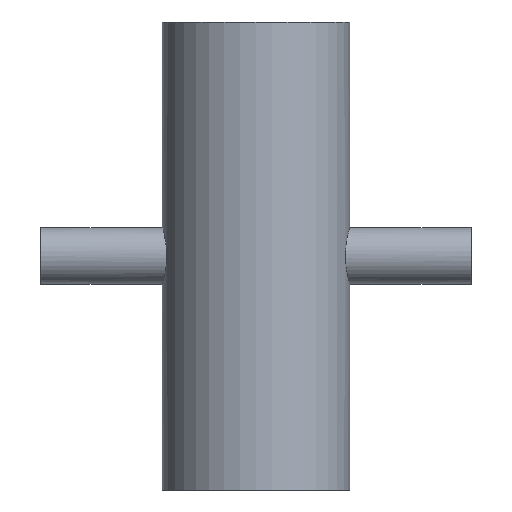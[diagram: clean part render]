
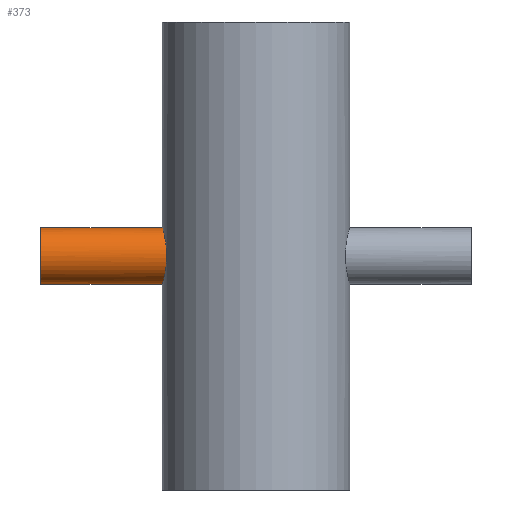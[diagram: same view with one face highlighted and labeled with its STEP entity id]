
A CAD part, front view. The second image highlights one B-rep face of the part: STEP entity #373.
In plain terms, the highlighted cylindrical face has radius 9.525 mm (diameter 19.05 mm), a partial arc.
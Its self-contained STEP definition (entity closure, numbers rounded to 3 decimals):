
#4 = FACE_OUTER_BOUND ( 'NONE', #678, .T. ) ;
#9 = DIRECTION ( 'NONE',  ( 0., 0., -1. ) ) ;
#27 = LINE ( 'NONE', #33, #527 ) ;
#33 = CARTESIAN_POINT ( 'NONE',  ( -73.025, 0., -9.525 ) ) ;
#35 = CARTESIAN_POINT ( 'NONE',  ( -31.727, -1.26, -9.447 ) ) ;
#51 = CARTESIAN_POINT ( 'NONE',  ( -31.75, 0., -9.525 ) ) ;
#57 = CARTESIAN_POINT ( 'NONE',  ( -31.75, 0., -9.525 ) ) ;
#67 = CIRCLE ( 'NONE', #119, 9.525 ) ;
#75 = AXIS2_PLACEMENT_3D ( 'NONE', #748, #429, #687 ) ;
#77 = CARTESIAN_POINT ( 'NONE',  ( -73.025, 0., -9.525 ) ) ;
#99 = CARTESIAN_POINT ( 'NONE',  ( -31.712, -1.574, -9.399 ) ) ;
#109 = DIRECTION ( 'NONE',  ( 1., 0., 0. ) ) ;
#119 = AXIS2_PLACEMENT_3D ( 'NONE', #639, #300, #9 ) ;
#151 = EDGE_CURVE ( 'NONE', #426, #670, #236, .T. ) ;
#157 = ORIENTED_EDGE ( 'NONE', *, *, #500, .T. ) ;
#236 = B_SPLINE_CURVE_WITH_KNOTS ( 'NONE', 3,
 ( #620, #866, #863, #595, #548, #424, #324, #393, #474, #495, #491, #483, #461, #488, #470, #457, #479, #465, #546, #530, #528, #450, #405, #419, #281, #264, #348, #389, #381, #355, #332, #380, #344, #329, #352, #341, #416, #402, #401, #319, #273, #99, #35, #600, #276, #57 ),
 .UNSPECIFIED., .F., .F.,
 ( 4, 2, 2, 2, 2, 2, 2, 2, 2, 2, 2, 2, 2, 2, 2, 2, 2, 2, 2, 2, 2, 2, 4 ),
 ( 0., 0.002, 0.003, 0.004, 0.006, 0.007, 0.007, 0.009, 0.011, 0.012, 0.013, 0.015, 0.017, 0.019, 0.02, 0.021, 0.022, 0.022, 0.024, 0.026, 0.028, 0.029, 0.03 ),
 .UNSPECIFIED. ) ;
#264 = CARTESIAN_POINT ( 'NONE',  ( -30.382, -9.219, -2.475 ) ) ;
#273 = CARTESIAN_POINT ( 'NONE',  ( -31.658, -2.496, -9.214 ) ) ;
#276 = CARTESIAN_POINT ( 'NONE',  ( -31.75, -0.317, -9.525 ) ) ;
#280 = LINE ( 'NONE', #520, #436 ) ;
#281 = CARTESIAN_POINT ( 'NONE',  ( -30.307, -9.463, -1.251 ) ) ;
#300 = DIRECTION ( 'NONE',  ( 1., 0., 0. ) ) ;
#319 = CARTESIAN_POINT ( 'NONE',  ( -31.605, -3.09, -9.031 ) ) ;
#324 = CARTESIAN_POINT ( 'NONE',  ( -31.572, -3.372, 8.914 ) ) ;
#329 = CARTESIAN_POINT ( 'NONE',  ( -30.931, -7.169, -6.279 ) ) ;
#331 = CYLINDRICAL_SURFACE ( 'NONE', #75, 9.525 ) ;
#332 = CARTESIAN_POINT ( 'NONE',  ( -30.702, -8.09, -5.037 ) ) ;
#333 = VERTEX_POINT ( 'NONE', #77 ) ;
#341 = CARTESIAN_POINT ( 'NONE',  ( -31.122, -6.299, -7.172 ) ) ;
#344 = CARTESIAN_POINT ( 'NONE',  ( -30.837, -7.563, -5.799 ) ) ;
#348 = CARTESIAN_POINT ( 'NONE',  ( -30.437, -9.038, -3.071 ) ) ;
#352 = CARTESIAN_POINT ( 'NONE',  ( -30.979, -6.958, -6.512 ) ) ;
#353 = CARTESIAN_POINT ( 'NONE',  ( -31.75, 0., 9.525 ) ) ;
#355 = CARTESIAN_POINT ( 'NONE',  ( -30.66, -8.25, -4.771 ) ) ;
#365 = DIRECTION ( 'NONE',  ( 1., 0., 0. ) ) ;
#373 = ADVANCED_FACE ( 'NONE', ( #4 ), #331, .T. ) ;
#377 = ORIENTED_EDGE ( 'NONE', *, *, #151, .F. ) ;
#380 = CARTESIAN_POINT ( 'NONE',  ( -30.791, -7.747, -5.551 ) ) ;
#381 = CARTESIAN_POINT ( 'NONE',  ( -30.579, -8.543, -4.223 ) ) ;
#389 = CARTESIAN_POINT ( 'NONE',  ( -30.541, -8.678, -3.939 ) ) ;
#393 = CARTESIAN_POINT ( 'NONE',  ( -31.472, -4.235, 8.554 ) ) ;
#401 = CARTESIAN_POINT ( 'NONE',  ( -31.471, -4.237, -8.553 ) ) ;
#402 = CARTESIAN_POINT ( 'NONE',  ( -31.39, -4.794, -8.254 ) ) ;
#405 = CARTESIAN_POINT ( 'NONE',  ( -30.288, -9.524, 0.635 ) ) ;
#412 = ORIENTED_EDGE ( 'NONE', *, *, #799, .T. ) ;
#416 = CARTESIAN_POINT ( 'NONE',  ( -31.216, -5.823, -7.563 ) ) ;
#419 = CARTESIAN_POINT ( 'NONE',  ( -30.287, -9.526, -0.615 ) ) ;
#424 = CARTESIAN_POINT ( 'NONE',  ( -31.602, -3.074, 9.021 ) ) ;
#426 = VERTEX_POINT ( 'NONE', #353 ) ;
#429 = DIRECTION ( 'NONE',  ( 1., 0., 0. ) ) ;
#436 = VECTOR ( 'NONE', #365, 1000. ) ;
#440 = VERTEX_POINT ( 'NONE', #751 ) ;
#450 = CARTESIAN_POINT ( 'NONE',  ( -30.307, -9.463, 1.255 ) ) ;
#457 = CARTESIAN_POINT ( 'NONE',  ( -30.658, -8.262, 4.782 ) ) ;
#461 = CARTESIAN_POINT ( 'NONE',  ( -31.075, -6.518, 6.953 ) ) ;
#465 = CARTESIAN_POINT ( 'NONE',  ( -30.474, -8.912, 3.376 ) ) ;
#470 = CARTESIAN_POINT ( 'NONE',  ( -30.838, -7.565, 5.821 ) ) ;
#474 = CARTESIAN_POINT ( 'NONE',  ( -31.392, -4.781, 8.261 ) ) ;
#475 = EDGE_CURVE ( 'NONE', #440, #426, #280, .T. ) ;
#479 = CARTESIAN_POINT ( 'NONE',  ( -30.577, -8.555, 4.234 ) ) ;
#483 = CARTESIAN_POINT ( 'NONE',  ( -31.122, -6.289, 7.161 ) ) ;
#488 = CARTESIAN_POINT ( 'NONE',  ( -30.933, -7.172, 6.298 ) ) ;
#491 = CARTESIAN_POINT ( 'NONE',  ( -31.215, -5.808, 7.556 ) ) ;
#495 = CARTESIAN_POINT ( 'NONE',  ( -31.261, -5.556, 7.743 ) ) ;
#500 = EDGE_CURVE ( 'NONE', #440, #333, #67, .T. ) ;
#503 = ORIENTED_EDGE ( 'NONE', *, *, #475, .F. ) ;
#520 = CARTESIAN_POINT ( 'NONE',  ( -73.025, 0., 9.525 ) ) ;
#527 = VECTOR ( 'NONE', #109, 1000. ) ;
#528 = CARTESIAN_POINT ( 'NONE',  ( -30.364, -9.278, 2.178 ) ) ;
#530 = CARTESIAN_POINT ( 'NONE',  ( -30.388, -9.2, 2.485 ) ) ;
#546 = CARTESIAN_POINT ( 'NONE',  ( -30.443, -9.018, 3.083 ) ) ;
#548 = CARTESIAN_POINT ( 'NONE',  ( -31.655, -2.474, 9.203 ) ) ;
#595 = CARTESIAN_POINT ( 'NONE',  ( -31.677, -2.171, 9.279 ) ) ;
#600 = CARTESIAN_POINT ( 'NONE',  ( -31.745, -0.632, -9.509 ) ) ;
#620 = CARTESIAN_POINT ( 'NONE',  ( -31.75, 0., 9.525 ) ) ;
#639 = CARTESIAN_POINT ( 'NONE',  ( -73.025, 0., 0. ) ) ;
#670 = VERTEX_POINT ( 'NONE', #51 ) ;
#678 = EDGE_LOOP ( 'NONE', ( #503, #157, #412, #377 ) ) ;
#687 = DIRECTION ( 'NONE',  ( 0., 0., -1. ) ) ;
#748 = CARTESIAN_POINT ( 'NONE',  ( -73.025, 0., 0. ) ) ;
#751 = CARTESIAN_POINT ( 'NONE',  ( -73.025, 0., 9.525 ) ) ;
#799 = EDGE_CURVE ( 'NONE', #333, #670, #27, .T. ) ;
#863 = CARTESIAN_POINT ( 'NONE',  ( -31.731, -1.255, 9.463 ) ) ;
#866 = CARTESIAN_POINT ( 'NONE',  ( -31.75, -0.633, 9.525 ) ) ;
